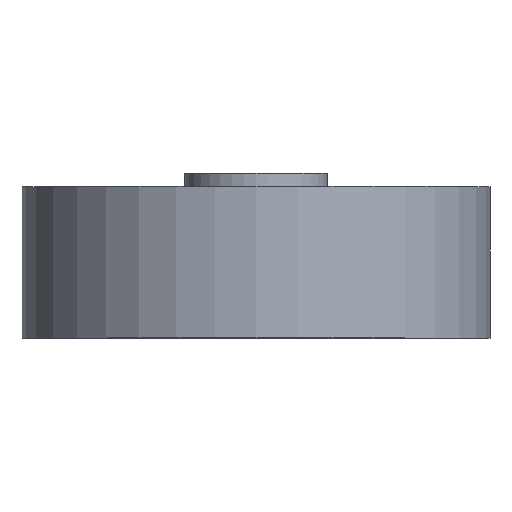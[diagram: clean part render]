
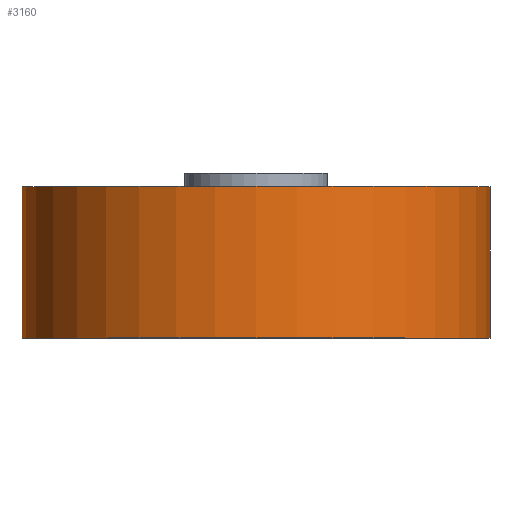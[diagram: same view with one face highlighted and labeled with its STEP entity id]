
A CAD part, top view. The second image highlights one B-rep face of the part: STEP entity #3160.
In plain terms, the highlighted cylindrical face has radius 52.5 mm (diameter 105 mm), a partial arc.
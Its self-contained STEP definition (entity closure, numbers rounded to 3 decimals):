
#15 = EDGE_LOOP ( 'NONE', ( #4750, #608, #488, #4502 ) ) ;
#318 = EDGE_CURVE ( 'NONE', #1686, #5519, #1472, .T. ) ;
#488 = ORIENTED_EDGE ( 'NONE', *, *, #602, .F. ) ;
#529 = VECTOR ( 'NONE', #1634, 1000. ) ;
#539 = VERTEX_POINT ( 'NONE', #5961 ) ;
#602 = EDGE_CURVE ( 'NONE', #539, #5519, #2390, .T. ) ;
#608 = ORIENTED_EDGE ( 'NONE', *, *, #318, .T. ) ;
#976 = CARTESIAN_POINT ( 'NONE',  ( 0., 19.75, 0. ) ) ;
#1472 = LINE ( 'NONE', #2004, #4399 ) ;
#1482 = FACE_OUTER_BOUND ( 'NONE', #15, .T. ) ;
#1567 = AXIS2_PLACEMENT_3D ( 'NONE', #4423, #5389, #4017 ) ;
#1634 = DIRECTION ( 'NONE',  ( 0., 1., 0. ) ) ;
#1686 = VERTEX_POINT ( 'NONE', #3656 ) ;
#2004 = CARTESIAN_POINT ( 'NONE',  ( 52.5, 19.75, 0. ) ) ;
#2087 = AXIS2_PLACEMENT_3D ( 'NONE', #5650, #2714, #6153 ) ;
#2390 = CIRCLE ( 'NONE', #2087, 52.5 ) ;
#2481 = CYLINDRICAL_SURFACE ( 'NONE', #4275, 52.5 ) ;
#2714 = DIRECTION ( 'NONE',  ( 0., 1., 0. ) ) ;
#2891 = DIRECTION ( 'NONE',  ( -1., 0., 0. ) ) ;
#2933 = VERTEX_POINT ( 'NONE', #3569 ) ;
#2940 = EDGE_CURVE ( 'NONE', #2933, #1686, #3562, .T. ) ;
#2950 = DIRECTION ( 'NONE',  ( 0., 1., 0. ) ) ;
#3160 = ADVANCED_FACE ( 'NONE', ( #1482 ), #2481, .T. ) ;
#3562 = CIRCLE ( 'NONE', #1567, 52.5 ) ;
#3569 = CARTESIAN_POINT ( 'NONE',  ( -52.5, -17.25, 0. ) ) ;
#3656 = CARTESIAN_POINT ( 'NONE',  ( 52.5, -17.25, 0. ) ) ;
#3871 = LINE ( 'NONE', #5759, #529 ) ;
#4017 = DIRECTION ( 'NONE',  ( -1., 0., 0. ) ) ;
#4161 = CARTESIAN_POINT ( 'NONE',  ( 52.5, 16.75, 0. ) ) ;
#4275 = AXIS2_PLACEMENT_3D ( 'NONE', #976, #2950, #2891 ) ;
#4399 = VECTOR ( 'NONE', #5349, 1000. ) ;
#4423 = CARTESIAN_POINT ( 'NONE',  ( 0., -17.25, 0. ) ) ;
#4502 = ORIENTED_EDGE ( 'NONE', *, *, #4833, .F. ) ;
#4750 = ORIENTED_EDGE ( 'NONE', *, *, #2940, .T. ) ;
#4833 = EDGE_CURVE ( 'NONE', #2933, #539, #3871, .T. ) ;
#5349 = DIRECTION ( 'NONE',  ( 0., 1., 0. ) ) ;
#5389 = DIRECTION ( 'NONE',  ( 0., 1., 0. ) ) ;
#5519 = VERTEX_POINT ( 'NONE', #4161 ) ;
#5650 = CARTESIAN_POINT ( 'NONE',  ( 0., 16.75, 0. ) ) ;
#5759 = CARTESIAN_POINT ( 'NONE',  ( -52.5, 19.75, 0. ) ) ;
#5961 = CARTESIAN_POINT ( 'NONE',  ( -52.5, 16.75, 0. ) ) ;
#6153 = DIRECTION ( 'NONE',  ( -1., 0., 0. ) ) ;
